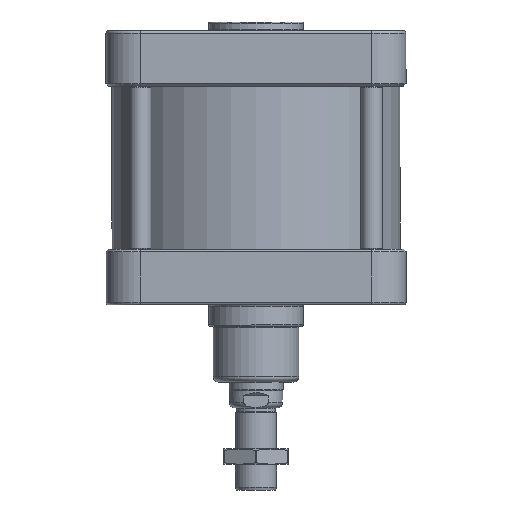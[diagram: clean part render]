
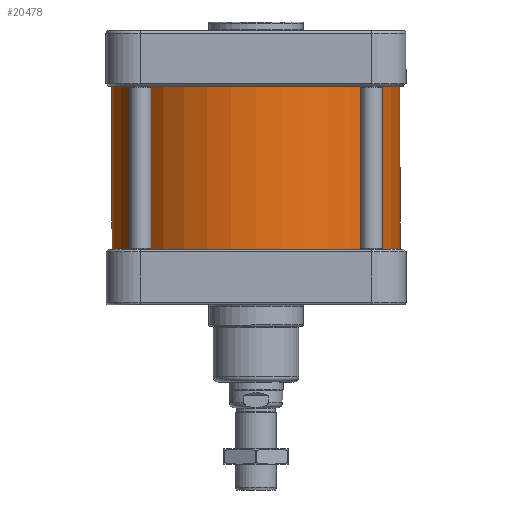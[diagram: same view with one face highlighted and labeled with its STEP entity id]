
A CAD part, front view. The second image highlights one B-rep face of the part: STEP entity #20478.
In plain terms, the highlighted cylindrical face has radius 168 mm (diameter 336 mm), a full revolution.
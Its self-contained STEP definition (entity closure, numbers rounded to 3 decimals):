
#1846=LINE('',#39340,#2934);
#2934=VECTOR('',#33957,1000.);
#4022=CYLINDRICAL_SURFACE('',#31802,168.);
#4509=ORIENTED_EDGE('',*,*,#10946,.T.);
#4510=ORIENTED_EDGE('',*,*,#10947,.T.);
#4511=ORIENTED_EDGE('',*,*,#10948,.T.);
#4512=ORIENTED_EDGE('',*,*,#10947,.F.);
#10946=EDGE_CURVE('',#14165,#14165,#16090,.T.);
#10947=EDGE_CURVE('',#14165,#14166,#1846,.T.);
#10948=EDGE_CURVE('',#14166,#14166,#16091,.T.);
#14165=VERTEX_POINT('',#39338);
#14166=VERTEX_POINT('',#39341);
#16090=CIRCLE('',#31801,168.);
#16091=CIRCLE('',#31803,168.);
#17004=EDGE_LOOP('',(#4509,#4510,#4511,#4512));
#18552=FACE_BOUND('',#17004,.T.);
#20478=ADVANCED_FACE('',(#18552),#4022,.T.);
#31801=AXIS2_PLACEMENT_3D('',#39337,#33953,#33954);
#31802=AXIS2_PLACEMENT_3D('',#39339,#33955,#33956);
#31803=AXIS2_PLACEMENT_3D('',#39342,#33958,#33959);
#33953=DIRECTION('',(0.,0.,-1.));
#33954=DIRECTION('',(-1.,0.,0.));
#33955=DIRECTION('',(0.,0.,1.));
#33956=DIRECTION('',(-1.,0.,0.));
#33957=DIRECTION('',(0.,0.,-1.));
#33958=DIRECTION('',(0.,0.,1.));
#33959=DIRECTION('',(-1.,0.,0.));
#39337=CARTESIAN_POINT('',(0.,0.,57.5));
#39338=CARTESIAN_POINT('',(168.,0.,57.5));
#39339=CARTESIAN_POINT('',(0.,0.,0.));
#39340=CARTESIAN_POINT('',(168.,0.,0.));
#39341=CARTESIAN_POINT('',(168.,0.,-132.5));
#39342=CARTESIAN_POINT('',(0.,0.,-132.5));
